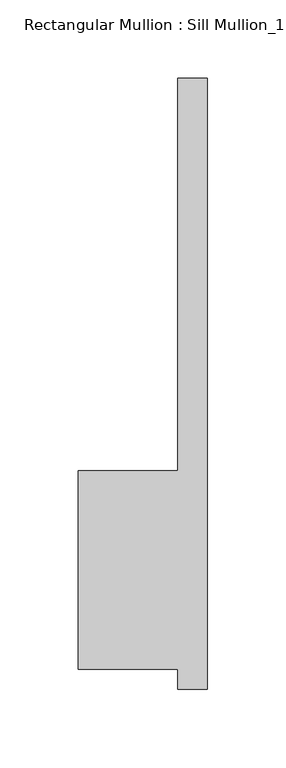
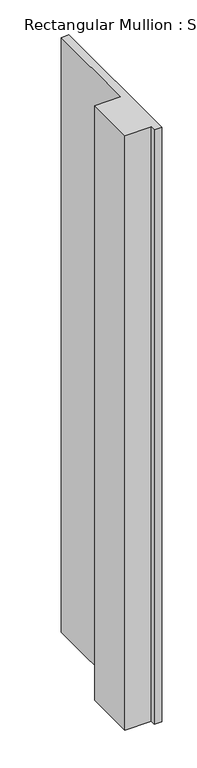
"""IFC4 building model written with IfcOpenShell, lengths in millimetres: member geometry."""

from ifc_helpers import new_model, si_unit, frame, origin, place, context, project, spatial, polyline, outline, extrude, source, transform, mapped, element, save


def member_f83df7cf(model_context):
    return source(origin(), model_context, "Body", "SweptSolid", [
        extrude(outline(polyline([(-82.55, 50.8), (-19.05, 50.8), (-19.05, 301.625), (0.0, 301.625), (0.0, -88.9), (-19.05, -88.9), (-19.05, -76.2), (-82.55, -76.2), (-82.55, 50.8)])), frame((0.0, 0.0, -1524.0), z_axis=(0.0, 0.0, 1.0), x_axis=(1.0, 0.0, 0.0)), (0.0, 0.0, 1.0), 1524.0),
    ])


if __name__ == "__main__":
    model = new_model("IFC4")
    model_context = context("Model", 3, world=origin())
    ifc_project = project(units=[si_unit("LENGTHUNIT", "METRE", prefix="MILLI")], contexts=[model_context])
    site = spatial("IfcSite", under=ifc_project)
    building = spatial("IfcBuilding", under=site)
    placement = place(None, origin())
    member_shape = member_f83df7cf(model_context)
    element("IfcMember", 1, ObjectType="Rectangular Mullion : Sill Mullion_15\" thick wall", at=placement, inside=building, context=model_context, shape_type="MappedRepresentation", body=[
        mapped(member_shape, transform((0.0, 0.0, 0.0), x_axis=(1.0, 0.0, 0.0), y_axis=(0.0, 1.0, 0.0), z_axis=(0.0, 0.0, 1.0))),
    ])
    save(model, "model.ifc")
